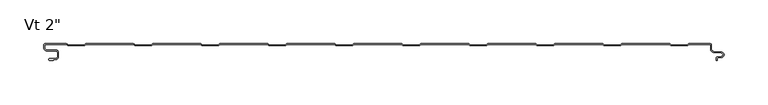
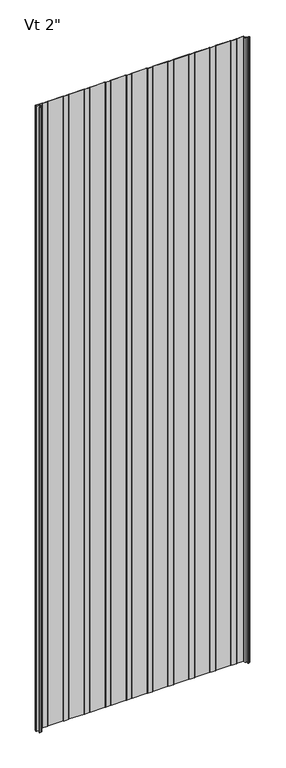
"""IFC4 building model written with IfcOpenShell, lengths in millimetres: plate geometry."""

from ifc_helpers import new_model, si_unit, frame, origin, place, context, project, spatial, polyline, circle_curve, source, transform, mapped, element, save
from ifc_brep_helpers import plane_surface, cylinder_surface, revolved_surface, advanced_brep


def plate_10c0e79f(model_context):
    return source(origin(), model_context, "Body", "AdvancedBrep", [
        advanced_brep(
        [(-378.9686912, -17.0015132, 2400.0), (-379.9686884, -18.0015164, 2400.0), (-378.9686912, -19.0015077, 2400.0), (-374.9684875, -19.0015077, 2400.0), (-374.9684875, -18.0015132, 2400.0), (-372.2762777, -18.0015132, 2400.0), (-368.976282, -14.7015175, 2400.0), (-368.976282, -10.3015263, 2400.0), (-372.2762775, -7.0015308, 2400.0), (-382.6962564, -7.0015308, 2400.0), (-384.4662506, -5.2315366, 2400.0), (-384.4662506, -0.9999889, 2400.0), (-359.965974, -0.9999889, 2400.0), (-358.5803314, -2.200228, 2400.0), (-339.2051651, -2.200228, 2400.0), (-337.8195321, -0.9999973, 2400.0), (-283.7661167, -0.9999973, 2400.0), (-282.3804838, -2.200228, 2400.0), (-263.0053175, -2.200228, 2400.0), (-261.6196845, -0.9999973, 2400.0), (-207.5662691, -0.9999973, 2400.0), (-206.1806362, -2.200228, 2400.0), (-186.8054699, -2.200228, 2400.0), (-185.4198369, -0.9999973, 2400.0), (-131.3664215, -0.9999973, 2400.0), (-129.9807886, -2.200228, 2400.0), (-110.6056223, -2.200228, 2400.0), (-109.2199893, -0.9999973, 2400.0), (-55.1665739, -0.9999973, 2400.0), (-53.780941, -2.200228, 2400.0), (-34.4057747, -2.200228, 2400.0), (-33.0201417, -0.9999973, 2400.0), (21.0332737, -0.9999973, 2400.0), (22.4189066, -2.200228, 2400.0), (41.7940729, -2.200228, 2400.0), (43.1797059, -0.9999973, 2400.0), (97.2331213, -0.9999973, 2400.0), (98.6187542, -2.200228, 2400.0), (117.9939205, -2.200228, 2400.0), (119.3795535, -0.9999973, 2400.0), (173.4329689, -0.9999973, 2400.0), (174.8186018, -2.200228, 2400.0), (194.1937681, -2.200228, 2400.0), (195.5794011, -0.9999973, 2400.0), (249.6328165, -0.9999973, 2400.0), (251.0184494, -2.200228, 2400.0), (270.3936157, -2.200228, 2400.0), (271.7792487, -0.9999973, 2400.0), (325.8326641, -0.9999973, 2400.0), (327.218297, -2.200228, 2400.0), (346.5934633, -2.200228, 2400.0), (347.9790963, -0.9999973, 2400.0), (372.4787013, -0.9999973, 2400.0), (372.4787013, -6.002598, 2400.0), (376.3016499, -9.9974338, 2400.0), (384.7931719, -10.4046415, 2400.0), (384.7921924, -14.7059795, 2400.0), (380.6513685, -14.9256402, 2400.0), (378.9686884, -16.6743434, 2400.0), (378.9686884, -19.0015261, 2400.0), (379.9686884, -19.0015261, 2400.0), (379.9686884, -16.6743434, 2400.0), (380.6955779, -15.924701, 2400.0), (384.8451655, -15.7045754, 2400.0), (384.8435732, -9.4059093, 2400.0), (376.3495495, -8.9985816, 2400.0), (373.4787013, -6.0004809, 2400.0), (373.4787013, -1.4015625, 2400.0), (372.078797, -0.0015653, 2400.0), (348.1275849, 2.36e-05, 2400.0), (347.2116305, -0.3417858, 2400.0), (346.2205829, -1.200228, 2400.0), (327.5911775, -1.200228, 2400.0), (326.6001298, -0.3417858, 2400.0), (325.6835129, 2.7e-06, 2400.0), (271.9283998, 2.7e-06, 2400.0), (271.0117829, -0.3417858, 2400.0), (270.0207353, -1.200228, 2400.0), (251.3913299, -1.200228, 2400.0), (250.4002822, -0.3417858, 2400.0), (249.4836653, 2.7e-06, 2400.0), (195.7285522, 2.7e-06, 2400.0), (194.8119353, -0.3417858, 2400.0), (193.8208877, -1.200228, 2400.0), (175.1914823, -1.200228, 2400.0), (174.2004346, -0.3417858, 2400.0), (173.2838177, 2.7e-06, 2400.0), (119.5287046, 2.7e-06, 2400.0), (118.6120877, -0.3417858, 2400.0), (117.6210401, -1.200228, 2400.0), (98.9916347, -1.200228, 2400.0), (98.000587, -0.3417858, 2400.0), (97.0839701, 2.7e-06, 2400.0), (43.328857, 2.7e-06, 2400.0), (42.4122401, -0.3417858, 2400.0), (41.4211925, -1.200228, 2400.0), (22.7917871, -1.200228, 2400.0), (21.8007394, -0.3417858, 2400.0), (20.8841225, 2.7e-06, 2400.0), (-32.8709906, 2.7e-06, 2400.0), (-33.7876075, -0.3417858, 2400.0), (-34.7786551, -1.200228, 2400.0), (-53.4080605, -1.200228, 2400.0), (-54.3991082, -0.3417858, 2400.0), (-55.3157251, 2.7e-06, 2400.0), (-109.0708382, 2.7e-06, 2400.0), (-109.9874551, -0.3417858, 2400.0), (-110.9785027, -1.200228, 2400.0), (-129.6079081, -1.200228, 2400.0), (-130.5989558, -0.3417858, 2400.0), (-131.5155727, 2.7e-06, 2400.0), (-185.2706858, 2.7e-06, 2400.0), (-186.1873027, -0.3417858, 2400.0), (-187.1783503, -1.200228, 2400.0), (-205.8077557, -1.200228, 2400.0), (-206.7988034, -0.3417858, 2400.0), (-207.7154203, 2.7e-06, 2400.0), (-261.4705334, 2.7e-06, 2400.0), (-262.3871503, -0.3417858, 2400.0), (-263.3781979, -1.200228, 2400.0), (-282.0076033, -1.200228, 2400.0), (-282.998651, -0.3417858, 2400.0), (-283.9152679, 2.7e-06, 2400.0), (-337.670381, 2.7e-06, 2400.0), (-338.5869979, -0.3417858, 2400.0), (-339.5780455, -1.200228, 2400.0), (-358.2074509, -1.200228, 2400.0), (-359.1984986, -0.3417858, 2400.0), (-360.1152069, 2.7e-06, 2400.0), (-384.0662545, 1.11e-05, 2400.0), (-385.4662506, -1.3999851, 2400.0), (-385.4662506, -5.2315366, 2400.0), (-382.6962564, -8.0015308, 2400.0), (-372.2762775, -8.0015308, 2400.0), (-369.976282, -10.3015263, 2400.0), (-369.976282, -14.7015175, 2400.0), (-372.2762777, -17.0015132, 2400.0), (-378.9686912, -17.0015132, 0.0), (-372.2762777, -17.0015132, 0.0), (-369.976282, -14.7015175, 0.0), (-369.976282, -10.3015263, 0.0), (-372.2762775, -8.0015308, 0.0), (-382.6962564, -8.0015308, 0.0), (-385.4662506, -5.2315366, 0.0), (-385.4662506, -1.3999851, 0.0), (-384.0662545, 1.11e-05, 0.0), (-360.1151155, 1.11e-05, 0.0), (-359.1984986, -0.3417858, 0.0), (-358.2074509, -1.200228, 0.0), (-339.5780455, -1.200228, 0.0), (-338.5869979, -0.3417858, 0.0), (-337.670381, 2.7e-06, 0.0), (-283.9152679, 2.7e-06, 0.0), (-282.998651, -0.3417858, 0.0), (-282.0076033, -1.200228, 0.0), (-263.3781979, -1.200228, 0.0), (-262.3871503, -0.3417858, 0.0), (-261.4705334, 2.7e-06, 0.0), (-207.7154203, 2.7e-06, 0.0), (-206.7988034, -0.3417858, 0.0), (-205.8077557, -1.200228, 0.0), (-187.1783503, -1.200228, 0.0), (-186.1873027, -0.3417858, 0.0), (-185.2706858, 2.7e-06, 0.0), (-131.5155727, 2.7e-06, 0.0), (-130.5989558, -0.3417858, 0.0), (-129.6079081, -1.200228, 0.0), (-110.9785027, -1.200228, 0.0), (-109.9874551, -0.3417858, 0.0), (-109.0708382, 2.7e-06, 0.0), (-55.3157251, 2.7e-06, 0.0), (-54.3991082, -0.3417858, 0.0), (-53.4080605, -1.200228, 0.0), (-34.7786551, -1.200228, 0.0), (-33.7876075, -0.3417858, 0.0), (-32.8709906, 2.7e-06, 0.0), (20.8841225, 2.7e-06, 0.0), (21.8007394, -0.3417858, 0.0), (22.7917871, -1.200228, 0.0), (41.4211925, -1.200228, 0.0), (42.4122401, -0.3417858, 0.0), (43.328857, 2.7e-06, 0.0), (97.0839701, 2.7e-06, 0.0), (98.000587, -0.3417858, 0.0), (98.9916347, -1.200228, 0.0), (117.6210401, -1.200228, 0.0), (118.6120877, -0.3417858, 0.0), (119.5287046, 2.7e-06, 0.0), (173.2838177, 2.7e-06, 0.0), (174.2004346, -0.3417858, 0.0), (175.1914823, -1.200228, 0.0), (193.8208877, -1.200228, 0.0), (194.8119353, -0.3417858, 0.0), (195.7285522, 2.7e-06, 0.0), (249.4836653, 2.7e-06, 0.0), (250.4002822, -0.3417858, 0.0), (251.3913299, -1.200228, 0.0), (270.0207353, -1.200228, 0.0), (271.0117829, -0.3417858, 0.0), (271.9283998, 2.7e-06, 0.0), (325.6835129, 2.7e-06, 0.0), (326.6001298, -0.3417858, 0.0), (327.5911775, -1.200228, 0.0), (346.2205829, -1.200228, 0.0), (347.2116305, -0.3417858, 0.0), (348.1282474, 2.7e-06, 0.0), (372.078797, 2.36e-05, 0.0), (373.4787013, -1.4015625, 0.0), (373.4787013, -6.0004809, 0.0), (376.3495495, -8.9985816, 0.0), (384.8435732, -9.4059093, 0.0), (384.8451655, -15.7045754, 0.0), (380.6955779, -15.924701, 0.0), (379.9686884, -16.6743434, 0.0), (379.9686884, -19.0015261, 0.0), (378.9686884, -19.0015261, 0.0), (378.9686884, -16.6743434, 0.0), (380.6513685, -14.9256402, 0.0), (384.7921924, -14.7059795, 0.0), (384.7931719, -10.4046415, 0.0), (376.3016499, -9.9974338, 0.0), (372.4787013, -6.002598, 0.0), (372.4787013, -0.9999973, 0.0), (347.9790963, -0.9999973, 0.0), (346.5934633, -2.200228, 0.0), (327.218297, -2.200228, 0.0), (325.8326641, -0.9999973, 0.0), (271.7792487, -0.9999973, 0.0), (270.3936157, -2.200228, 0.0), (251.0184494, -2.200228, 0.0), (249.6328165, -0.9999973, 0.0), (195.5794011, -0.9999973, 0.0), (194.1937681, -2.200228, 0.0), (174.8186018, -2.200228, 0.0), (173.4329689, -0.9999973, 0.0), (119.3795535, -0.9999973, 0.0), (117.9939205, -2.200228, 0.0), (98.6187542, -2.200228, 0.0), (97.2331213, -0.9999973, 0.0), (43.1797059, -0.9999973, 0.0), (41.7940729, -2.200228, 0.0), (22.4189066, -2.200228, 0.0), (21.0332737, -0.9999973, 0.0), (-33.0201417, -0.9999973, 0.0), (-34.4057747, -2.200228, 0.0), (-53.780941, -2.200228, 0.0), (-55.1665739, -0.9999973, 0.0), (-109.2199893, -0.9999973, 0.0), (-110.6056223, -2.200228, 0.0), (-129.9807886, -2.200228, 0.0), (-131.3664215, -0.9999973, 0.0), (-185.4198369, -0.9999973, 0.0), (-186.8054699, -2.200228, 0.0), (-206.1806362, -2.200228, 0.0), (-207.5662691, -0.9999973, 0.0), (-261.6196845, -0.9999973, 0.0), (-263.0053175, -2.200228, 0.0), (-282.3804838, -2.200228, 0.0), (-283.7661167, -0.9999973, 0.0), (-337.8195321, -0.9999973, 0.0), (-339.2051651, -2.200228, 0.0), (-358.5803314, -2.200228, 0.0), (-359.965974, -0.9999889, 0.0), (-384.4662506, -0.9999889, 0.0), (-384.4662506, -5.2315366, 0.0), (-382.6962564, -7.0015308, 0.0), (-372.2762775, -7.0015308, 0.0), (-368.976282, -10.3015263, 0.0), (-368.976282, -14.7015175, 0.0), (-372.2762777, -18.0015132, 0.0), (-374.9684875, -18.0015132, 0.0), (-374.9684875, -19.0015077, 0.0), (-378.9686912, -19.0015077, 0.0), (-379.9686884, -18.0015165, 0.0)],
        [
            (0, 1, circle_curve(frame((-378.9686912, -18.0015105, 2400.0), z_axis=(0.0, 0.0, 1.0), x_axis=(1.0, 0.0, 0.0)), 0.9999973)),
            (1, 2, circle_curve(frame((-378.9686912, -18.0015105, 2400.0), z_axis=(0.0, 0.0, 1.0), x_axis=(1.0, 0.0, 0.0)), 0.9999972)),
            (2, 3),
            (3, 4),
            (4, 5),
            (5, 6, circle_curve(frame((-372.2762777, -14.7015175, 2400.0), z_axis=(0.0, 0.0, 1.0), x_axis=(1.0, 0.0, 0.0)), 3.2999957)),
            (6, 7),
            (7, 8, circle_curve(frame((-372.2762775, -10.3015263, 2400.0), z_axis=(0.0, 0.0, 1.0), x_axis=(1.0, 0.0, 0.0)), 3.2999955)),
            (8, 9),
            (9, 10, circle_curve(frame((-382.6962564, -5.2315366, 2400.0), z_axis=(0.0, 0.0, -1.0), x_axis=(1.0, 0.0, 0.0)), 1.7699942)),
            (10, 11),
            (11, 12),
            (12, 13),
            (13, 14),
            (14, 15),
            (15, 16),
            (16, 17),
            (17, 18),
            (18, 19),
            (19, 20),
            (20, 21),
            (21, 22),
            (22, 23),
            (23, 24),
            (24, 25),
            (25, 26),
            (26, 27),
            (27, 28),
            (28, 29),
            (29, 30),
            (30, 31),
            (31, 32),
            (32, 33),
            (33, 34),
            (34, 35),
            (35, 36),
            (36, 37),
            (37, 38),
            (38, 39),
            (39, 40),
            (40, 41),
            (41, 42),
            (42, 43),
            (43, 44),
            (44, 45),
            (45, 46),
            (46, 47),
            (47, 48),
            (48, 49),
            (49, 50),
            (50, 51),
            (51, 52),
            (52, 53),
            (53, 54, circle_curve(frame((376.4939817, -5.9867311, 2400.0), z_axis=(0.0, 0.0, 1.0), x_axis=(1.0, 0.0, 0.0)), 4.0153117)),
            (54, 55),
            (55, 56, circle_curve(frame((384.6781032, -12.5552844, 2400.0), z_axis=(0.0, 0.0, -1.0), x_axis=(1.0, 0.0, 0.0)), 2.153719)),
            (56, 57),
            (57, 58, circle_curve(frame((380.7186869, -16.6743434, 2400.0), z_axis=(0.0, 0.0, 1.0), x_axis=(1.0, 0.0, 0.0)), 1.7499985)),
            (58, 59),
            (59, 60),
            (60, 61),
            (61, 62, circle_curve(frame((380.7186869, -16.6743434, 2400.0), z_axis=(0.0, 0.0, -1.0), x_axis=(1.0, 0.0, 0.0)), 0.7499985)),
            (62, 63),
            (63, 64, circle_curve(frame((384.6781032, -12.5552844, 2400.0), z_axis=(0.0, 0.0, 1.0), x_axis=(1.0, 0.0, 0.0)), 3.153719)),
            (64, 65),
            (65, 66, circle_curve(frame((376.4939817, -5.9867311, 2400.0), z_axis=(0.0, 0.0, -1.0), x_axis=(1.0, 0.0, 0.0)), 3.0153117)),
            (66, 67),
            (67, 68, circle_curve(frame((372.0787041, -1.4015625, 2400.0), z_axis=(0.0, 0.0, 1.0), x_axis=(1.0, 0.0, 0.0)), 1.3999972)),
            (68, 69),
            (69, 70, circle_curve(frame((348.1282474, -1.3999945, 2400.0), z_axis=(0.0, 0.0, 1.0), x_axis=(1.0, 0.0, 0.0)), 1.3999972)),
            (70, 71),
            (71, 72),
            (72, 73),
            (73, 74, circle_curve(frame((325.6835129, -1.3999945, 2400.0), z_axis=(0.0, 0.0, 1.0), x_axis=(1.0, 0.0, 0.0)), 1.3999972)),
            (74, 75),
            (75, 76, circle_curve(frame((271.9283998, -1.3999945, 2400.0), z_axis=(0.0, 0.0, 1.0), x_axis=(1.0, 0.0, 0.0)), 1.3999972)),
            (76, 77),
            (77, 78),
            (78, 79),
            (79, 80, circle_curve(frame((249.4836653, -1.3999945, 2400.0), z_axis=(0.0, 0.0, 1.0), x_axis=(1.0, 0.0, 0.0)), 1.3999972)),
            (80, 81),
            (81, 82, circle_curve(frame((195.7285522, -1.3999945, 2400.0), z_axis=(0.0, 0.0, 1.0), x_axis=(1.0, 0.0, 0.0)), 1.3999972)),
            (82, 83),
            (83, 84),
            (84, 85),
            (85, 86, circle_curve(frame((173.2838177, -1.3999945, 2400.0), z_axis=(0.0, 0.0, 1.0), x_axis=(1.0, 0.0, 0.0)), 1.3999972)),
            (86, 87),
            (87, 88, circle_curve(frame((119.5287046, -1.3999945, 2400.0), z_axis=(0.0, 0.0, 1.0), x_axis=(1.0, 0.0, 0.0)), 1.3999972)),
            (88, 89),
            (89, 90),
            (90, 91),
            (91, 92, circle_curve(frame((97.0839701, -1.3999945, 2400.0), z_axis=(0.0, 0.0, 1.0), x_axis=(1.0, 0.0, 0.0)), 1.3999972)),
            (92, 93),
            (93, 94, circle_curve(frame((43.328857, -1.3999945, 2400.0), z_axis=(0.0, 0.0, 1.0), x_axis=(1.0, 0.0, 0.0)), 1.3999972)),
            (94, 95),
            (95, 96),
            (96, 97),
            (97, 98, circle_curve(frame((20.8841225, -1.3999945, 2400.0), z_axis=(0.0, 0.0, 1.0), x_axis=(1.0, 0.0, 0.0)), 1.3999972)),
            (98, 99),
            (99, 100, circle_curve(frame((-32.8709906, -1.3999945, 2400.0), z_axis=(0.0, 0.0, 1.0), x_axis=(1.0, 0.0, 0.0)), 1.3999972)),
            (100, 101),
            (101, 102),
            (102, 103),
            (103, 104, circle_curve(frame((-55.3157251, -1.3999945, 2400.0), z_axis=(0.0, 0.0, 1.0), x_axis=(1.0, 0.0, 0.0)), 1.3999972)),
            (104, 105),
            (105, 106, circle_curve(frame((-109.0708382, -1.3999945, 2400.0), z_axis=(0.0, 0.0, 1.0), x_axis=(1.0, 0.0, 0.0)), 1.3999972)),
            (106, 107),
            (107, 108),
            (108, 109),
            (109, 110, circle_curve(frame((-131.5155727, -1.3999945, 2400.0), z_axis=(0.0, 0.0, 1.0), x_axis=(1.0, 0.0, 0.0)), 1.3999972)),
            (110, 111),
            (111, 112, circle_curve(frame((-185.2706858, -1.3999945, 2400.0), z_axis=(0.0, 0.0, 1.0), x_axis=(1.0, 0.0, 0.0)), 1.3999972)),
            (112, 113),
            (113, 114),
            (114, 115),
            (115, 116, circle_curve(frame((-207.7154203, -1.3999945, 2400.0), z_axis=(0.0, 0.0, 1.0), x_axis=(1.0, 0.0, 0.0)), 1.3999972)),
            (116, 117),
            (117, 118, circle_curve(frame((-261.4705334, -1.3999945, 2400.0), z_axis=(0.0, 0.0, 1.0), x_axis=(1.0, 0.0, 0.0)), 1.3999972)),
            (118, 119),
            (119, 120),
            (120, 121),
            (121, 122, circle_curve(frame((-283.9152679, -1.3999945, 2400.0), z_axis=(0.0, 0.0, 1.0), x_axis=(1.0, 0.0, 0.0)), 1.3999972)),
            (122, 123),
            (123, 124, circle_curve(frame((-337.670381, -1.3999945, 2400.0), z_axis=(0.0, 0.0, 1.0), x_axis=(1.0, 0.0, 0.0)), 1.3999972)),
            (124, 125),
            (125, 126),
            (126, 127),
            (127, 128, circle_curve(frame((-360.1151155, -1.3999945, 2400.0), z_axis=(0.0, 0.0, 1.0), x_axis=(1.0, 0.0, 0.0)), 1.3999972)),
            (128, 129),
            (129, 130, circle_curve(frame((-384.0662545, -1.3999851, 2400.0), z_axis=(0.0, 0.0, 1.0), x_axis=(1.0, 0.0, 0.0)), 1.3999962)),
            (130, 131),
            (131, 132, circle_curve(frame((-382.6962564, -5.2315366, 2400.0), z_axis=(0.0, 0.0, 1.0), x_axis=(1.0, 0.0, 0.0)), 2.7699942)),
            (132, 133),
            (133, 134, circle_curve(frame((-372.2762775, -10.3015263, 2400.0), z_axis=(0.0, 0.0, -1.0), x_axis=(1.0, 0.0, 0.0)), 2.2999955)),
            (134, 135),
            (135, 136, circle_curve(frame((-372.2762777, -14.7015175, 2400.0), z_axis=(0.0, 0.0, -1.0), x_axis=(1.0, 0.0, 0.0)), 2.2999957)),
            (136, 0),
            (137, 138),
            (138, 139, circle_curve(frame((-372.2762777, -14.7015175, 0.0), z_axis=(0.0, 0.0, 1.0), x_axis=(1.0, 0.0, 0.0)), 2.2999957)),
            (139, 140),
            (140, 141, circle_curve(frame((-372.2762775, -10.3015263, 0.0), z_axis=(0.0, 0.0, 1.0), x_axis=(1.0, 0.0, 0.0)), 2.2999955)),
            (141, 142),
            (142, 143, circle_curve(frame((-382.6962564, -5.2315366, 0.0), z_axis=(0.0, 0.0, -1.0), x_axis=(1.0, 0.0, 0.0)), 2.7699942)),
            (143, 144),
            (144, 145, circle_curve(frame((-384.0662545, -1.3999851, 0.0), z_axis=(0.0, 0.0, -1.0), x_axis=(1.0, 0.0, 0.0)), 1.3999962)),
            (145, 146),
            (146, 147, circle_curve(frame((-360.1151155, -1.3999945, 0.0), z_axis=(0.0, 0.0, -1.0), x_axis=(1.0, 0.0, 0.0)), 1.3999972)),
            (147, 148),
            (148, 149),
            (149, 150),
            (150, 151, circle_curve(frame((-337.670381, -1.3999945, 0.0), z_axis=(0.0, 0.0, -1.0), x_axis=(1.0, 0.0, 0.0)), 1.3999972)),
            (151, 152),
            (152, 153, circle_curve(frame((-283.9152679, -1.3999945, 0.0), z_axis=(0.0, 0.0, -1.0), x_axis=(1.0, 0.0, 0.0)), 1.3999972)),
            (153, 154),
            (154, 155),
            (155, 156),
            (156, 157, circle_curve(frame((-261.4705334, -1.3999945, 0.0), z_axis=(0.0, 0.0, -1.0), x_axis=(1.0, 0.0, 0.0)), 1.3999972)),
            (157, 158),
            (158, 159, circle_curve(frame((-207.7154203, -1.3999945, 0.0), z_axis=(0.0, 0.0, -1.0), x_axis=(1.0, 0.0, 0.0)), 1.3999972)),
            (159, 160),
            (160, 161),
            (161, 162),
            (162, 163, circle_curve(frame((-185.2706858, -1.3999945, 0.0), z_axis=(0.0, 0.0, -1.0), x_axis=(1.0, 0.0, 0.0)), 1.3999972)),
            (163, 164),
            (164, 165, circle_curve(frame((-131.5155727, -1.3999945, 0.0), z_axis=(0.0, 0.0, -1.0), x_axis=(1.0, 0.0, 0.0)), 1.3999972)),
            (165, 166),
            (166, 167),
            (167, 168),
            (168, 169, circle_curve(frame((-109.0708382, -1.3999945, 0.0), z_axis=(0.0, 0.0, -1.0), x_axis=(1.0, 0.0, 0.0)), 1.3999972)),
            (169, 170),
            (170, 171, circle_curve(frame((-55.3157251, -1.3999945, 0.0), z_axis=(0.0, 0.0, -1.0), x_axis=(1.0, 0.0, 0.0)), 1.3999972)),
            (171, 172),
            (172, 173),
            (173, 174),
            (174, 175, circle_curve(frame((-32.8709906, -1.3999945, 0.0), z_axis=(0.0, 0.0, -1.0), x_axis=(1.0, 0.0, 0.0)), 1.3999972)),
            (175, 176),
            (176, 177, circle_curve(frame((20.8841225, -1.3999945, 0.0), z_axis=(0.0, 0.0, -1.0), x_axis=(1.0, 0.0, 0.0)), 1.3999972)),
            (177, 178),
            (178, 179),
            (179, 180),
            (180, 181, circle_curve(frame((43.328857, -1.3999945, 0.0), z_axis=(0.0, 0.0, -1.0), x_axis=(1.0, 0.0, 0.0)), 1.3999972)),
            (181, 182),
            (182, 183, circle_curve(frame((97.0839701, -1.3999945, 0.0), z_axis=(0.0, 0.0, -1.0), x_axis=(1.0, 0.0, 0.0)), 1.3999972)),
            (183, 184),
            (184, 185),
            (185, 186),
            (186, 187, circle_curve(frame((119.5287046, -1.3999945, 0.0), z_axis=(0.0, 0.0, -1.0), x_axis=(1.0, 0.0, 0.0)), 1.3999972)),
            (187, 188),
            (188, 189, circle_curve(frame((173.2838177, -1.3999945, 0.0), z_axis=(0.0, 0.0, -1.0), x_axis=(1.0, 0.0, 0.0)), 1.3999972)),
            (189, 190),
            (190, 191),
            (191, 192),
            (192, 193, circle_curve(frame((195.7285522, -1.3999945, 0.0), z_axis=(0.0, 0.0, -1.0), x_axis=(1.0, 0.0, 0.0)), 1.3999972)),
            (193, 194),
            (194, 195, circle_curve(frame((249.4836653, -1.3999945, 0.0), z_axis=(0.0, 0.0, -1.0), x_axis=(1.0, 0.0, 0.0)), 1.3999972)),
            (195, 196),
            (196, 197),
            (197, 198),
            (198, 199, circle_curve(frame((271.9283998, -1.3999945, 0.0), z_axis=(0.0, 0.0, -1.0), x_axis=(1.0, 0.0, 0.0)), 1.3999972)),
            (199, 200),
            (200, 201, circle_curve(frame((325.6835129, -1.3999945, 0.0), z_axis=(0.0, 0.0, -1.0), x_axis=(1.0, 0.0, 0.0)), 1.3999972)),
            (201, 202),
            (202, 203),
            (203, 204),
            (204, 205, circle_curve(frame((348.1282474, -1.3999945, 0.0), z_axis=(0.0, 0.0, -1.0), x_axis=(1.0, 0.0, 0.0)), 1.3999972)),
            (205, 206),
            (206, 207, circle_curve(frame((372.0787041, -1.4015625, 0.0), z_axis=(0.0, 0.0, -1.0), x_axis=(1.0, 0.0, 0.0)), 1.3999972)),
            (207, 208),
            (208, 209, circle_curve(frame((376.4939817, -5.9867311, 0.0), z_axis=(0.0, 0.0, 1.0), x_axis=(1.0, 0.0, 0.0)), 3.0153117)),
            (209, 210),
            (210, 211, circle_curve(frame((384.6781032, -12.5552844, 0.0), z_axis=(0.0, 0.0, -1.0), x_axis=(1.0, 0.0, 0.0)), 3.153719)),
            (211, 212),
            (212, 213, circle_curve(frame((380.7186869, -16.6743434, 0.0), z_axis=(0.0, 0.0, 1.0), x_axis=(1.0, 0.0, 0.0)), 0.7499985)),
            (213, 214),
            (214, 215),
            (215, 216),
            (216, 217, circle_curve(frame((380.7186869, -16.6743434, 0.0), z_axis=(0.0, 0.0, -1.0), x_axis=(1.0, 0.0, 0.0)), 1.7499985)),
            (217, 218),
            (218, 219, circle_curve(frame((384.6781032, -12.5552844, 0.0), z_axis=(0.0, 0.0, 1.0), x_axis=(1.0, 0.0, 0.0)), 2.153719)),
            (219, 220),
            (220, 221, circle_curve(frame((376.4939817, -5.9867311, 0.0), z_axis=(0.0, 0.0, -1.0), x_axis=(1.0, 0.0, 0.0)), 4.0153117)),
            (221, 222),
            (222, 223),
            (223, 224),
            (224, 225),
            (225, 226),
            (226, 227),
            (227, 228),
            (228, 229),
            (229, 230),
            (230, 231),
            (231, 232),
            (232, 233),
            (233, 234),
            (234, 235),
            (235, 236),
            (236, 237),
            (237, 238),
            (238, 239),
            (239, 240),
            (240, 241),
            (241, 242),
            (242, 243),
            (243, 244),
            (244, 245),
            (245, 246),
            (246, 247),
            (247, 248),
            (248, 249),
            (249, 250),
            (250, 251),
            (251, 252),
            (252, 253),
            (253, 254),
            (254, 255),
            (255, 256),
            (256, 257),
            (257, 258),
            (258, 259),
            (259, 260),
            (260, 261),
            (261, 262),
            (262, 263),
            (263, 264),
            (264, 265, circle_curve(frame((-382.6962564, -5.2315366, 0.0), z_axis=(0.0, 0.0, 1.0), x_axis=(1.0, 0.0, 0.0)), 1.7699942)),
            (265, 266),
            (266, 267, circle_curve(frame((-372.2762775, -10.3015263, 0.0), z_axis=(0.0, 0.0, -1.0), x_axis=(1.0, 0.0, 0.0)), 3.2999955)),
            (267, 268),
            (268, 269, circle_curve(frame((-372.2762777, -14.7015175, 0.0), z_axis=(0.0, 0.0, -1.0), x_axis=(1.0, 0.0, 0.0)), 3.2999957)),
            (269, 270),
            (270, 271),
            (271, 272),
            (272, 273, circle_curve(frame((-378.9686912, -18.0015105, 0.0), z_axis=(0.0, 0.0, -1.0), x_axis=(1.0, 0.0, 0.0)), 0.9999972)),
            (273, 137, circle_curve(frame((-378.9686912, -18.0015105, 0.0), z_axis=(0.0, 0.0, -1.0), x_axis=(1.0, 0.0, 0.0)), 0.9999973)),
            (136, 138),
            (137, 0),
            (135, 139),
            (134, 140),
            (133, 141),
            (132, 142),
            (131, 143),
            (130, 144),
            (129, 145),
            (128, 146),
            (127, 147),
            (126, 148),
            (125, 149),
            (124, 150),
            (123, 151),
            (122, 152),
            (121, 153),
            (120, 154),
            (119, 155),
            (118, 156),
            (117, 157),
            (116, 158),
            (115, 159),
            (114, 160),
            (113, 161),
            (112, 162),
            (111, 163),
            (110, 164),
            (109, 165),
            (108, 166),
            (107, 167),
            (106, 168),
            (105, 169),
            (104, 170),
            (103, 171),
            (102, 172),
            (101, 173),
            (100, 174),
            (99, 175),
            (98, 176),
            (97, 177),
            (96, 178),
            (95, 179),
            (94, 180),
            (93, 181),
            (92, 182),
            (91, 183),
            (90, 184),
            (89, 185),
            (88, 186),
            (87, 187),
            (86, 188),
            (85, 189),
            (84, 190),
            (83, 191),
            (82, 192),
            (81, 193),
            (80, 194),
            (79, 195),
            (78, 196),
            (77, 197),
            (76, 198),
            (75, 199),
            (74, 200),
            (73, 201),
            (72, 202),
            (71, 203),
            (70, 204),
            (69, 205),
            (68, 206),
            (67, 207),
            (66, 208),
            (65, 209),
            (64, 210),
            (63, 211),
            (62, 212),
            (61, 213),
            (60, 214),
            (59, 215),
            (58, 216),
            (57, 217),
            (56, 218),
            (55, 219),
            (54, 220),
            (53, 221),
            (52, 222),
            (51, 223),
            (50, 224),
            (49, 225),
            (48, 226),
            (47, 227),
            (46, 228),
            (45, 229),
            (44, 230),
            (43, 231),
            (42, 232),
            (41, 233),
            (40, 234),
            (39, 235),
            (38, 236),
            (37, 237),
            (36, 238),
            (35, 239),
            (34, 240),
            (33, 241),
            (32, 242),
            (31, 243),
            (30, 244),
            (29, 245),
            (28, 246),
            (27, 247),
            (26, 248),
            (25, 249),
            (24, 250),
            (23, 251),
            (22, 252),
            (21, 253),
            (20, 254),
            (19, 255),
            (18, 256),
            (17, 257),
            (16, 258),
            (15, 259),
            (14, 260),
            (13, 261),
            (12, 262),
            (11, 263),
            (10, 264),
            (9, 265),
            (8, 266),
            (7, 267),
            (6, 268),
            (5, 269),
            (4, 270),
            (3, 271),
            (2, 272),
            (1, 273),
        ],
        [
            plane_surface(frame((0.0, 2.7e-06, 2400.0), z_axis=(0.0, 0.0, 1.0), x_axis=(0.0, 1.0, 0.0))),
            plane_surface(frame((0.0, 2.7e-06, 0.0), z_axis=(0.0, 0.0, -1.0), x_axis=(0.0, 1.0, 0.0))),
            plane_surface(frame((-378.9686912, -17.0015132, 2400.0), z_axis=(0.0, 1.0, 0.0), x_axis=(0.0, 0.0, -1.0))),
            revolved_surface(polyline([(-369.97628199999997, -14.7015175, 0.0), (-369.97628199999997, -14.7015175, 2400.0)]), (-372.2762777, -14.7015175, 2400.0), (0.0, 0.0, -1.0)),
            plane_surface(frame((-369.976282, -14.7015175, 2400.0), z_axis=(-1.0, 0.0, 0.0), x_axis=(0.0, 0.0, -1.0))),
            revolved_surface(polyline([(-369.97628199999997, -10.3015263, 0.0), (-369.97628199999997, -10.3015263, 2400.0)]), (-372.2762775, -10.3015263, 2400.0), (0.0, 0.0, -1.0)),
            plane_surface(frame((-372.2762775, -8.0015308, 2400.0), z_axis=(0.0, -1.0, 0.0), x_axis=(0.0, 0.0, -1.0))),
            cylinder_surface(frame((-382.6962564, -5.2315366, 2400.0), z_axis=(0.0, 0.0, 1.0), x_axis=(1.0, 0.0, 0.0)), 2.7699942),
            plane_surface(frame((-385.4662506, -5.2315366, 2400.0), z_axis=(-1.0, 0.0, 0.0), x_axis=(0.0, 0.0, -1.0))),
            cylinder_surface(frame((-384.0662545, -1.3999851, 2400.0), z_axis=(0.0, 0.0, 1.0), x_axis=(1.0, 0.0, 0.0)), 1.3999962),
            plane_surface(frame((-384.0662545, 1.11e-05, 2400.0), z_axis=(0.0, 1.0, 0.0), x_axis=(0.0, 0.0, -1.0))),
            cylinder_surface(frame((-360.1151155, -1.3999945, 2400.0), z_axis=(0.0, 0.0, 1.0), x_axis=(1.0, 0.0, 0.0)), 1.3999972),
            plane_surface(frame((-359.1984986, -0.3417858, 2400.0), z_axis=(0.6547276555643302, 0.7558648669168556, 0.0), x_axis=(0.0, 0.0, -1.0))),
            plane_surface(frame((-348.8927482, -1.200228, 2400.0), z_axis=(0.0, 1.0, 0.0), x_axis=(0.0, 0.0, -1.0))),
            plane_surface(frame((-339.5780455, -1.200228, 2400.0), z_axis=(-0.654727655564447, 0.7558648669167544, 0.0), x_axis=(0.0, 0.0, -1.0))),
            cylinder_surface(frame((-337.670381, -1.3999945, 2400.0), z_axis=(0.0, 0.0, 1.0), x_axis=(1.0, 0.0, 0.0)), 1.3999972),
            plane_surface(frame((-337.670381, 2.7e-06, 2400.0), z_axis=(0.0, 1.0, 0.0), x_axis=(0.0, 0.0, -1.0))),
            cylinder_surface(frame((-283.9152679, -1.3999945, 2400.0), z_axis=(0.0, 0.0, 1.0), x_axis=(1.0, 0.0, 0.0)), 1.3999972),
            plane_surface(frame((-282.998651, -0.3417858, 2400.0), z_axis=(0.6547276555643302, 0.7558648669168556, 0.0), x_axis=(0.0, 0.0, -1.0))),
            plane_surface(frame((-272.6929006, -1.200228, 2400.0), z_axis=(0.0, 1.0, 0.0), x_axis=(0.0, 0.0, -1.0))),
            plane_surface(frame((-263.3781979, -1.200228, 2400.0), z_axis=(-0.654727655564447, 0.7558648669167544, 0.0), x_axis=(0.0, 0.0, -1.0))),
            cylinder_surface(frame((-261.4705334, -1.3999945, 2400.0), z_axis=(0.0, 0.0, 1.0), x_axis=(1.0, 0.0, 0.0)), 1.3999972),
            plane_surface(frame((-261.4705334, 2.7e-06, 2400.0), z_axis=(0.0, 1.0, 0.0), x_axis=(0.0, 0.0, -1.0))),
            cylinder_surface(frame((-207.7154203, -1.3999945, 2400.0), z_axis=(0.0, 0.0, 1.0), x_axis=(1.0, 0.0, 0.0)), 1.3999972),
            plane_surface(frame((-206.7988034, -0.3417858, 2400.0), z_axis=(0.6547276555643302, 0.7558648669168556, 0.0), x_axis=(0.0, 0.0, -1.0))),
            plane_surface(frame((-196.493053, -1.200228, 2400.0), z_axis=(0.0, 1.0, 0.0), x_axis=(0.0, 0.0, -1.0))),
            plane_surface(frame((-187.1783503, -1.200228, 2400.0), z_axis=(-0.654727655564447, 0.7558648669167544, 0.0), x_axis=(0.0, 0.0, -1.0))),
            cylinder_surface(frame((-185.2706858, -1.3999945, 2400.0), z_axis=(0.0, 0.0, 1.0), x_axis=(1.0, 0.0, 0.0)), 1.3999972),
            plane_surface(frame((-185.2706858, 2.7e-06, 2400.0), z_axis=(0.0, 1.0, 0.0), x_axis=(0.0, 0.0, -1.0))),
            cylinder_surface(frame((-131.5155727, -1.3999945, 2400.0), z_axis=(0.0, 0.0, 1.0), x_axis=(1.0, 0.0, 0.0)), 1.3999972),
            plane_surface(frame((-130.5989558, -0.3417858, 2400.0), z_axis=(0.6547276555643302, 0.7558648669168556, 0.0), x_axis=(0.0, 0.0, -1.0))),
            plane_surface(frame((-120.2932054, -1.200228, 2400.0), z_axis=(0.0, 1.0, 0.0), x_axis=(0.0, 0.0, -1.0))),
            plane_surface(frame((-110.9785027, -1.200228, 2400.0), z_axis=(-0.654727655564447, 0.7558648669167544, 0.0), x_axis=(0.0, 0.0, -1.0))),
            cylinder_surface(frame((-109.0708382, -1.3999945, 2400.0), z_axis=(0.0, 0.0, 1.0), x_axis=(1.0, 0.0, 0.0)), 1.3999972),
            plane_surface(frame((-109.0708382, 2.7e-06, 2400.0), z_axis=(0.0, 1.0, 0.0), x_axis=(0.0, 0.0, -1.0))),
            cylinder_surface(frame((-55.3157251, -1.3999945, 2400.0), z_axis=(0.0, 0.0, 1.0), x_axis=(1.0, 0.0, 0.0)), 1.3999972),
            plane_surface(frame((-54.3991082, -0.3417858, 2400.0), z_axis=(0.6547276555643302, 0.7558648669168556, 0.0), x_axis=(0.0, 0.0, -1.0))),
            plane_surface(frame((-44.0933578, -1.200228, 2400.0), z_axis=(0.0, 1.0, 0.0), x_axis=(0.0, 0.0, -1.0))),
            plane_surface(frame((-34.7786551, -1.200228, 2400.0), z_axis=(-0.654727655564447, 0.7558648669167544, 0.0), x_axis=(0.0, 0.0, -1.0))),
            cylinder_surface(frame((-32.8709906, -1.3999945, 2400.0), z_axis=(0.0, 0.0, 1.0), x_axis=(1.0, 0.0, 0.0)), 1.3999972),
            plane_surface(frame((-32.8709906, 2.7e-06, 2400.0), z_axis=(0.0, 1.0, 0.0), x_axis=(0.0, 0.0, -1.0))),
            cylinder_surface(frame((20.8841225, -1.3999945, 2400.0), z_axis=(0.0, 0.0, 1.0), x_axis=(1.0, 0.0, 0.0)), 1.3999972),
            plane_surface(frame((21.8007394, -0.3417858, 2400.0), z_axis=(0.6547276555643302, 0.7558648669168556, 0.0), x_axis=(0.0, 0.0, -1.0))),
            plane_surface(frame((32.1064898, -1.200228, 2400.0), z_axis=(0.0, 1.0, 0.0), x_axis=(0.0, 0.0, -1.0))),
            plane_surface(frame((41.4211925, -1.200228, 2400.0), z_axis=(-0.654727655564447, 0.7558648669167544, 0.0), x_axis=(0.0, 0.0, -1.0))),
            cylinder_surface(frame((43.328857, -1.3999945, 2400.0), z_axis=(0.0, 0.0, 1.0), x_axis=(1.0, 0.0, 0.0)), 1.3999972),
            plane_surface(frame((43.328857, 2.7e-06, 2400.0), z_axis=(0.0, 1.0, 0.0), x_axis=(0.0, 0.0, -1.0))),
            cylinder_surface(frame((97.0839701, -1.3999945, 2400.0), z_axis=(0.0, 0.0, 1.0), x_axis=(1.0, 0.0, 0.0)), 1.3999972),
            plane_surface(frame((98.000587, -0.3417858, 2400.0), z_axis=(0.6547276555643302, 0.7558648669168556, 0.0), x_axis=(0.0, 0.0, -1.0))),
            plane_surface(frame((108.3063374, -1.200228, 2400.0), z_axis=(0.0, 1.0, 0.0), x_axis=(0.0, 0.0, -1.0))),
            plane_surface(frame((117.6210401, -1.200228, 2400.0), z_axis=(-0.654727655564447, 0.7558648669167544, 0.0), x_axis=(0.0, 0.0, -1.0))),
            cylinder_surface(frame((119.5287046, -1.3999945, 2400.0), z_axis=(0.0, 0.0, 1.0), x_axis=(1.0, 0.0, 0.0)), 1.3999972),
            plane_surface(frame((119.5287046, 2.7e-06, 2400.0), z_axis=(0.0, 1.0, 0.0), x_axis=(0.0, 0.0, -1.0))),
            cylinder_surface(frame((173.2838177, -1.3999945, 2400.0), z_axis=(0.0, 0.0, 1.0), x_axis=(1.0, 0.0, 0.0)), 1.3999972),
            plane_surface(frame((174.2004346, -0.3417858, 2400.0), z_axis=(0.6547276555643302, 0.7558648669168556, 0.0), x_axis=(0.0, 0.0, -1.0))),
            plane_surface(frame((184.506185, -1.200228, 2400.0), z_axis=(0.0, 1.0, 0.0), x_axis=(0.0, 0.0, -1.0))),
            plane_surface(frame((193.8208877, -1.200228, 2400.0), z_axis=(-0.654727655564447, 0.7558648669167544, 0.0), x_axis=(0.0, 0.0, -1.0))),
            cylinder_surface(frame((195.7285522, -1.3999945, 2400.0), z_axis=(0.0, 0.0, 1.0), x_axis=(1.0, 0.0, 0.0)), 1.3999972),
            plane_surface(frame((195.7285522, 2.7e-06, 2400.0), z_axis=(0.0, 1.0, 0.0), x_axis=(0.0, 0.0, -1.0))),
            cylinder_surface(frame((249.4836653, -1.3999945, 2400.0), z_axis=(0.0, 0.0, 1.0), x_axis=(1.0, 0.0, 0.0)), 1.3999972),
            plane_surface(frame((250.4002822, -0.3417858, 2400.0), z_axis=(0.6547276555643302, 0.7558648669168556, 0.0), x_axis=(0.0, 0.0, -1.0))),
            plane_surface(frame((260.7060326, -1.200228, 2400.0), z_axis=(0.0, 1.0, 0.0), x_axis=(0.0, 0.0, -1.0))),
            plane_surface(frame((270.0207353, -1.200228, 2400.0), z_axis=(-0.654727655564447, 0.7558648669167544, 0.0), x_axis=(0.0, 0.0, -1.0))),
            cylinder_surface(frame((271.9283998, -1.3999945, 2400.0), z_axis=(0.0, 0.0, 1.0), x_axis=(1.0, 0.0, 0.0)), 1.3999972),
            plane_surface(frame((271.9283998, 2.7e-06, 2400.0), z_axis=(0.0, 1.0, 0.0), x_axis=(0.0, 0.0, -1.0))),
            cylinder_surface(frame((325.6835129, -1.3999945, 2400.0), z_axis=(0.0, 0.0, 1.0), x_axis=(1.0, 0.0, 0.0)), 1.3999972),
            plane_surface(frame((326.6001298, -0.3417858, 2400.0), z_axis=(0.6547276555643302, 0.7558648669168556, 0.0), x_axis=(0.0, 0.0, -1.0))),
            plane_surface(frame((336.9058802, -1.200228, 2400.0), z_axis=(0.0, 1.0, 0.0), x_axis=(0.0, 0.0, -1.0))),
            plane_surface(frame((346.2205829, -1.200228, 2400.0), z_axis=(-0.654727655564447, 0.7558648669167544, 0.0), x_axis=(0.0, 0.0, -1.0))),
            cylinder_surface(frame((348.1282474, -1.3999945, 2400.0), z_axis=(0.0, 0.0, 1.0), x_axis=(1.0, 0.0, 0.0)), 1.3999972),
            plane_surface(frame((348.1275849, 2.36e-05, 2400.0), z_axis=(0.0, 1.0, 0.0), x_axis=(0.0, 0.0, -1.0))),
            cylinder_surface(frame((372.0787041, -1.4015625, 2400.0), z_axis=(0.0, 0.0, 1.0), x_axis=(1.0, 0.0, 0.0)), 1.3999972),
            plane_surface(frame((373.4787013, -1.4015625, 2400.0), z_axis=(1.0, 0.0, 0.0), x_axis=(0.0, 0.0, -1.0))),
            revolved_surface(polyline([(379.5092934, -5.9867311, 0.0), (379.5092934, -5.9867311, 2400.0)]), (376.4939817, -5.9867311, 2400.0), (0.0, 0.0, -1.0)),
            plane_surface(frame((376.3495495, -8.9985816, 2400.0), z_axis=(0.04789957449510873, 0.9988521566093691, 0.0), x_axis=(0.0, 0.0, -1.0))),
            cylinder_surface(frame((384.6781032, -12.5552844, 2400.0), z_axis=(0.0, 0.0, 1.0), x_axis=(1.0, 0.0, 0.0)), 3.153719),
            plane_surface(frame((384.8451655, -15.7045754, 2400.0), z_axis=(0.052973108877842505, -0.9985959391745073, 0.0), x_axis=(0.0, 0.0, -1.0))),
            revolved_surface(polyline([(381.4686854, -16.6743434, 0.0), (381.4686854, -16.6743434, 2400.0)]), (380.7186869, -16.6743434, 2400.0), (0.0, 0.0, -1.0)),
            plane_surface(frame((379.9686884, -17.5871382, 2400.0), z_axis=(1.0, 0.0, 0.0), x_axis=(0.0, 0.0, -1.0))),
            plane_surface(frame((379.9686884, -19.0015261, 2400.0), z_axis=(0.0, -1.0, 0.0), x_axis=(0.0, 0.0, -1.0))),
            plane_surface(frame((378.9686884, -17.5871382, 2400.0), z_axis=(-1.0, 0.0, 0.0), x_axis=(0.0, 0.0, -1.0))),
            cylinder_surface(frame((380.7186869, -16.6743434, 2400.0), z_axis=(0.0, 0.0, 1.0), x_axis=(1.0, 0.0, 0.0)), 1.7499985),
            plane_surface(frame((380.6513685, -14.9256402, 2400.0), z_axis=(-0.05297310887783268, 0.9985959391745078, 0.0), x_axis=(0.0, 0.0, -1.0))),
            revolved_surface(polyline([(386.83182220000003, -12.5552844, 0.0), (386.83182220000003, -12.5552844, 2400.0)]), (384.6781032, -12.5552844, 2400.0), (0.0, 0.0, -1.0)),
            plane_surface(frame((384.7931719, -10.4046415, 2400.0), z_axis=(-0.047899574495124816, -0.9988521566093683, 0.0), x_axis=(0.0, 0.0, -1.0))),
            cylinder_surface(frame((376.4939817, -5.9867311, 2400.0), z_axis=(0.0, 0.0, 1.0), x_axis=(1.0, 0.0, 0.0)), 4.0153117),
            plane_surface(frame((372.4787013, -6.002598, 2400.0), z_axis=(-1.0, 0.0, 0.0), x_axis=(0.0, 0.0, -1.0))),
            plane_surface(frame((372.4787013, -0.9999973, 2400.0), z_axis=(0.0, -1.0, 0.0), x_axis=(0.0, 0.0, -1.0))),
            plane_surface(frame((347.9790963, -0.9999973, 2400.0), z_axis=(0.654727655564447, -0.7558648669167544, 0.0), x_axis=(0.0, 0.0, -1.0))),
            plane_surface(frame((346.5934633, -2.200228, 2400.0), z_axis=(0.0, -1.0, 0.0), x_axis=(0.0, 0.0, -1.0))),
            plane_surface(frame((327.218297, -2.200228, 2400.0), z_axis=(-0.6547276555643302, -0.7558648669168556, 0.0), x_axis=(0.0, 0.0, -1.0))),
            plane_surface(frame((325.8326641, -0.9999973, 2400.0), z_axis=(0.0, -1.0, 0.0), x_axis=(0.0, 0.0, -1.0))),
            plane_surface(frame((271.7792487, -0.9999973, 2400.0), z_axis=(0.654727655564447, -0.7558648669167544, 0.0), x_axis=(0.0, 0.0, -1.0))),
            plane_surface(frame((270.3936157, -2.200228, 2400.0), z_axis=(0.0, -1.0, 0.0), x_axis=(0.0, 0.0, -1.0))),
            plane_surface(frame((251.0184494, -2.200228, 2400.0), z_axis=(-0.6547276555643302, -0.7558648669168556, 0.0), x_axis=(0.0, 0.0, -1.0))),
            plane_surface(frame((249.6328165, -0.9999973, 2400.0), z_axis=(0.0, -1.0, 0.0), x_axis=(0.0, 0.0, -1.0))),
            plane_surface(frame((195.5794011, -0.9999973, 2400.0), z_axis=(0.654727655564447, -0.7558648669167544, 0.0), x_axis=(0.0, 0.0, -1.0))),
            plane_surface(frame((194.1937681, -2.200228, 2400.0), z_axis=(0.0, -1.0, 0.0), x_axis=(0.0, 0.0, -1.0))),
            plane_surface(frame((174.8186018, -2.200228, 2400.0), z_axis=(-0.6547276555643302, -0.7558648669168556, 0.0), x_axis=(0.0, 0.0, -1.0))),
            plane_surface(frame((173.4329689, -0.9999973, 2400.0), z_axis=(0.0, -1.0, 0.0), x_axis=(0.0, 0.0, -1.0))),
            plane_surface(frame((119.3795535, -0.9999973, 2400.0), z_axis=(0.654727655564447, -0.7558648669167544, 0.0), x_axis=(0.0, 0.0, -1.0))),
            plane_surface(frame((117.9939205, -2.200228, 2400.0), z_axis=(0.0, -1.0, 0.0), x_axis=(0.0, 0.0, -1.0))),
            plane_surface(frame((98.6187542, -2.200228, 2400.0), z_axis=(-0.6547276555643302, -0.7558648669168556, 0.0), x_axis=(0.0, 0.0, -1.0))),
            plane_surface(frame((97.2331213, -0.9999973, 2400.0), z_axis=(0.0, -1.0, 0.0), x_axis=(0.0, 0.0, -1.0))),
            plane_surface(frame((43.1797059, -0.9999973, 2400.0), z_axis=(0.654727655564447, -0.7558648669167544, 0.0), x_axis=(0.0, 0.0, -1.0))),
            plane_surface(frame((41.7940729, -2.200228, 2400.0), z_axis=(0.0, -1.0, 0.0), x_axis=(0.0, 0.0, -1.0))),
            plane_surface(frame((22.4189066, -2.200228, 2400.0), z_axis=(-0.6547276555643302, -0.7558648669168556, 0.0), x_axis=(0.0, 0.0, -1.0))),
            plane_surface(frame((21.0332737, -0.9999973, 2400.0), z_axis=(0.0, -1.0, 0.0), x_axis=(0.0, 0.0, -1.0))),
            plane_surface(frame((-33.0201417, -0.9999973, 2400.0), z_axis=(0.654727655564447, -0.7558648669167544, 0.0), x_axis=(0.0, 0.0, -1.0))),
            plane_surface(frame((-34.4057747, -2.200228, 2400.0), z_axis=(0.0, -1.0, 0.0), x_axis=(0.0, 0.0, -1.0))),
            plane_surface(frame((-53.780941, -2.200228, 2400.0), z_axis=(-0.6547276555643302, -0.7558648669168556, 0.0), x_axis=(0.0, 0.0, -1.0))),
            plane_surface(frame((-55.1665739, -0.9999973, 2400.0), z_axis=(0.0, -1.0, 0.0), x_axis=(0.0, 0.0, -1.0))),
            plane_surface(frame((-109.2199893, -0.9999973, 2400.0), z_axis=(0.654727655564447, -0.7558648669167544, 0.0), x_axis=(0.0, 0.0, -1.0))),
            plane_surface(frame((-110.6056223, -2.200228, 2400.0), z_axis=(0.0, -1.0, 0.0), x_axis=(0.0, 0.0, -1.0))),
            plane_surface(frame((-129.9807886, -2.200228, 2400.0), z_axis=(-0.6547276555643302, -0.7558648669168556, 0.0), x_axis=(0.0, 0.0, -1.0))),
            plane_surface(frame((-131.3664215, -0.9999973, 2400.0), z_axis=(0.0, -1.0, 0.0), x_axis=(0.0, 0.0, -1.0))),
            plane_surface(frame((-185.4198369, -0.9999973, 2400.0), z_axis=(0.654727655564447, -0.7558648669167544, 0.0), x_axis=(0.0, 0.0, -1.0))),
            plane_surface(frame((-186.8054699, -2.200228, 2400.0), z_axis=(0.0, -1.0, 0.0), x_axis=(0.0, 0.0, -1.0))),
            plane_surface(frame((-206.1806362, -2.200228, 2400.0), z_axis=(-0.6547276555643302, -0.7558648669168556, 0.0), x_axis=(0.0, 0.0, -1.0))),
            plane_surface(frame((-207.5662691, -0.9999973, 2400.0), z_axis=(0.0, -1.0, 0.0), x_axis=(0.0, 0.0, -1.0))),
            plane_surface(frame((-261.6196845, -0.9999973, 2400.0), z_axis=(0.654727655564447, -0.7558648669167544, 0.0), x_axis=(0.0, 0.0, -1.0))),
            plane_surface(frame((-263.0053175, -2.200228, 2400.0), z_axis=(0.0, -1.0, 0.0), x_axis=(0.0, 0.0, -1.0))),
            plane_surface(frame((-282.3804838, -2.200228, 2400.0), z_axis=(-0.6547276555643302, -0.7558648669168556, 0.0), x_axis=(0.0, 0.0, -1.0))),
            plane_surface(frame((-283.7661167, -0.9999973, 2400.0), z_axis=(0.0, -1.0, 0.0), x_axis=(0.0, 0.0, -1.0))),
            plane_surface(frame((-337.8195321, -0.9999973, 2400.0), z_axis=(0.654727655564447, -0.7558648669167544, 0.0), x_axis=(0.0, 0.0, -1.0))),
            plane_surface(frame((-339.2051651, -2.200228, 2400.0), z_axis=(0.0, -1.0, 0.0), x_axis=(0.0, 0.0, -1.0))),
            plane_surface(frame((-358.5803314, -2.200228, 2400.0), z_axis=(-0.6547276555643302, -0.7558648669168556, 0.0), x_axis=(0.0, 0.0, -1.0))),
            plane_surface(frame((-359.965974, -0.9999889, 2400.0), z_axis=(0.0, -1.0, 0.0), x_axis=(0.0, 0.0, -1.0))),
            plane_surface(frame((-384.4662506, -0.9999889, 2400.0), z_axis=(1.0, 0.0, 0.0), x_axis=(0.0, 0.0, -1.0))),
            revolved_surface(polyline([(-380.9262622, -5.2315366, 0.0), (-380.9262622, -5.2315366, 2400.0)]), (-382.6962564, -5.2315366, 2400.0), (0.0, 0.0, -1.0)),
            plane_surface(frame((-382.6962564, -7.0015308, 2400.0), z_axis=(0.0, 1.0, 0.0), x_axis=(0.0, 0.0, -1.0))),
            cylinder_surface(frame((-372.2762775, -10.3015263, 2400.0), z_axis=(0.0, 0.0, 1.0), x_axis=(1.0, 0.0, 0.0)), 3.2999955),
            plane_surface(frame((-368.976282, -10.3015263, 2400.0), z_axis=(1.0, 0.0, 0.0), x_axis=(0.0, 0.0, -1.0))),
            cylinder_surface(frame((-372.2762777, -14.7015175, 2400.0), z_axis=(0.0, 0.0, 1.0), x_axis=(1.0, 0.0, 0.0)), 3.2999957),
            plane_surface(frame((-372.2762777, -18.0015132, 2400.0), z_axis=(0.0, -1.0, 0.0), x_axis=(0.0, 0.0, -1.0))),
            plane_surface(frame((-374.9684875, -18.0015132, 2400.0), z_axis=(1.0, 0.0, 0.0), x_axis=(0.0, 0.0, -1.0))),
            plane_surface(frame((-374.9684875, -19.0015077, 2400.0), z_axis=(0.0, -1.0, 0.0), x_axis=(0.0, 0.0, -1.0))),
            cylinder_surface(frame((-378.9686912, -18.0015105, 2400.0), z_axis=(0.0, 0.0, 1.0), x_axis=(1.0, 0.0, 0.0)), 0.9999972),
            cylinder_surface(frame((-378.9686912, -18.0015105, 2400.0), z_axis=(0.0, 0.0, 1.0), x_axis=(1.0, 0.0, 0.0)), 0.9999973),
        ],
        [
            (0, [[1, 2, 3, 4, 5, 6, 7, 8, 9, 10, 11, 12, 13, 14, 15, 16, 17, 18, 19, 20, 21, 22, 23, 24, 25, 26, 27, 28, 29, 30, 31, 32, 33, 34, 35, 36, 37, 38, 39, 40, 41, 42, 43, 44, 45, 46, 47, 48, 49, 50, 51, 52, 53, 54, 55, 56, 57, 58, 59, 60, 61, 62, 63, 64, 65, 66, 67, 68, 69, 70, 71, 72, 73, 74, 75, 76, 77, 78, 79, 80, 81, 82, 83, 84, 85, 86, 87, 88, 89, 90, 91, 92, 93, 94, 95, 96, 97, 98, 99, 100, 101, 102, 103, 104, 105, 106, 107, 108, 109, 110, 111, 112, 113, 114, 115, 116, 117, 118, 119, 120, 121, 122, 123, 124, 125, 126, 127, 128, 129, 130, 131, 132, 133, 134, 135, 136, 137]]),
            (1, [[138, 139, 140, 141, 142, 143, 144, 145, 146, 147, 148, 149, 150, 151, 152, 153, 154, 155, 156, 157, 158, 159, 160, 161, 162, 163, 164, 165, 166, 167, 168, 169, 170, 171, 172, 173, 174, 175, 176, 177, 178, 179, 180, 181, 182, 183, 184, 185, 186, 187, 188, 189, 190, 191, 192, 193, 194, 195, 196, 197, 198, 199, 200, 201, 202, 203, 204, 205, 206, 207, 208, 209, 210, 211, 212, 213, 214, 215, 216, 217, 218, 219, 220, 221, 222, 223, 224, 225, 226, 227, 228, 229, 230, 231, 232, 233, 234, 235, 236, 237, 238, 239, 240, 241, 242, 243, 244, 245, 246, 247, 248, 249, 250, 251, 252, 253, 254, 255, 256, 257, 258, 259, 260, 261, 262, 263, 264, 265, 266, 267, 268, 269, 270, 271, 272, 273, 274]]),
            (2, [[275, -138, 276, -137]]),
            (3, [[277, -139, -275, -136]]),
            (4, [[278, -140, -277, -135]]),
            (5, [[279, -141, -278, -134]]),
            (6, [[280, -142, -279, -133]]),
            (7, [[281, -143, -280, -132]]),
            (8, [[282, -144, -281, -131]]),
            (9, [[283, -145, -282, -130]]),
            (10, [[284, -146, -283, -129]]),
            (11, [[285, -147, -284, -128]]),
            (12, [[286, -148, -285, -127]]),
            (13, [[-126, 287, -149, -286]]),
            (14, [[288, -150, -287, -125]]),
            (15, [[289, -151, -288, -124]]),
            (16, [[290, -152, -289, -123]]),
            (17, [[291, -153, -290, -122]]),
            (18, [[292, -154, -291, -121]]),
            (19, [[-120, 293, -155, -292]]),
            (20, [[294, -156, -293, -119]]),
            (21, [[295, -157, -294, -118]]),
            (22, [[296, -158, -295, -117]]),
            (23, [[297, -159, -296, -116]]),
            (24, [[298, -160, -297, -115]]),
            (25, [[-114, 299, -161, -298]]),
            (26, [[300, -162, -299, -113]]),
            (27, [[301, -163, -300, -112]]),
            (28, [[302, -164, -301, -111]]),
            (29, [[303, -165, -302, -110]]),
            (30, [[304, -166, -303, -109]]),
            (31, [[-108, 305, -167, -304]]),
            (32, [[306, -168, -305, -107]]),
            (33, [[307, -169, -306, -106]]),
            (34, [[308, -170, -307, -105]]),
            (35, [[309, -171, -308, -104]]),
            (36, [[310, -172, -309, -103]]),
            (37, [[-102, 311, -173, -310]]),
            (38, [[312, -174, -311, -101]]),
            (39, [[313, -175, -312, -100]]),
            (40, [[314, -176, -313, -99]]),
            (41, [[315, -177, -314, -98]]),
            (42, [[316, -178, -315, -97]]),
            (43, [[-96, 317, -179, -316]]),
            (44, [[318, -180, -317, -95]]),
            (45, [[319, -181, -318, -94]]),
            (46, [[320, -182, -319, -93]]),
            (47, [[321, -183, -320, -92]]),
            (48, [[322, -184, -321, -91]]),
            (49, [[-90, 323, -185, -322]]),
            (50, [[324, -186, -323, -89]]),
            (51, [[325, -187, -324, -88]]),
            (52, [[326, -188, -325, -87]]),
            (53, [[327, -189, -326, -86]]),
            (54, [[328, -190, -327, -85]]),
            (55, [[-84, 329, -191, -328]]),
            (56, [[330, -192, -329, -83]]),
            (57, [[331, -193, -330, -82]]),
            (58, [[332, -194, -331, -81]]),
            (59, [[333, -195, -332, -80]]),
            (60, [[334, -196, -333, -79]]),
            (61, [[-78, 335, -197, -334]]),
            (62, [[336, -198, -335, -77]]),
            (63, [[337, -199, -336, -76]]),
            (64, [[338, -200, -337, -75]]),
            (65, [[339, -201, -338, -74]]),
            (66, [[340, -202, -339, -73]]),
            (67, [[-72, 341, -203, -340]]),
            (68, [[342, -204, -341, -71]]),
            (69, [[343, -205, -342, -70]]),
            (70, [[344, -206, -343, -69]]),
            (71, [[345, -207, -344, -68]]),
            (72, [[346, -208, -345, -67]]),
            (73, [[347, -209, -346, -66]]),
            (74, [[348, -210, -347, -65]]),
            (75, [[349, -211, -348, -64]]),
            (76, [[350, -212, -349, -63]]),
            (77, [[351, -213, -350, -62]]),
            (78, [[-61, 352, -214, -351]]),
            (79, [[353, -215, -352, -60]]),
            (80, [[-59, 354, -216, -353]]),
            (81, [[355, -217, -354, -58]]),
            (82, [[356, -218, -355, -57]]),
            (83, [[357, -219, -356, -56]]),
            (84, [[358, -220, -357, -55]]),
            (85, [[359, -221, -358, -54]]),
            (86, [[360, -222, -359, -53]]),
            (87, [[361, -223, -360, -52]]),
            (88, [[362, -224, -361, -51]]),
            (89, [[363, -225, -362, -50]]),
            (90, [[364, -226, -363, -49]]),
            (91, [[365, -227, -364, -48]]),
            (92, [[366, -228, -365, -47]]),
            (93, [[367, -229, -366, -46]]),
            (94, [[368, -230, -367, -45]]),
            (95, [[369, -231, -368, -44]]),
            (96, [[370, -232, -369, -43]]),
            (97, [[371, -233, -370, -42]]),
            (98, [[372, -234, -371, -41]]),
            (99, [[373, -235, -372, -40]]),
            (100, [[374, -236, -373, -39]]),
            (101, [[375, -237, -374, -38]]),
            (102, [[376, -238, -375, -37]]),
            (103, [[377, -239, -376, -36]]),
            (104, [[378, -240, -377, -35]]),
            (105, [[379, -241, -378, -34]]),
            (106, [[380, -242, -379, -33]]),
            (107, [[381, -243, -380, -32]]),
            (108, [[382, -244, -381, -31]]),
            (109, [[383, -245, -382, -30]]),
            (110, [[384, -246, -383, -29]]),
            (111, [[385, -247, -384, -28]]),
            (112, [[386, -248, -385, -27]]),
            (113, [[387, -249, -386, -26]]),
            (114, [[388, -250, -387, -25]]),
            (115, [[389, -251, -388, -24]]),
            (116, [[390, -252, -389, -23]]),
            (117, [[391, -253, -390, -22]]),
            (118, [[392, -254, -391, -21]]),
            (119, [[393, -255, -392, -20]]),
            (120, [[394, -256, -393, -19]]),
            (121, [[395, -257, -394, -18]]),
            (122, [[396, -258, -395, -17]]),
            (123, [[397, -259, -396, -16]]),
            (124, [[398, -260, -397, -15]]),
            (125, [[399, -261, -398, -14]]),
            (126, [[400, -262, -399, -13]]),
            (127, [[401, -263, -400, -12]]),
            (128, [[402, -264, -401, -11]]),
            (129, [[403, -265, -402, -10]]),
            (130, [[404, -266, -403, -9]]),
            (131, [[405, -267, -404, -8]]),
            (132, [[406, -268, -405, -7]]),
            (133, [[407, -269, -406, -6]]),
            (134, [[408, -270, -407, -5]]),
            (135, [[409, -271, -408, -4]]),
            (136, [[410, -272, -409, -3]]),
            (137, [[411, -273, -410, -2]]),
            (138, [[-276, -274, -411, -1]]),
        ],
    ),
    ])


if __name__ == "__main__":
    model = new_model("IFC4")
    model_context = context("Model", 3, world=origin())
    ifc_project = project(units=[si_unit("LENGTHUNIT", "METRE", prefix="MILLI")], contexts=[model_context])
    site = spatial("IfcSite", under=ifc_project)
    building = spatial("IfcBuilding", under=site)
    placement = place(None, origin())
    plate_shape = plate_10c0e79f(model_context)
    element("IfcPlate", 1, ObjectType="KIP-30-Karrier-KP-R19-CP-Vt-SL_SL : Vt 2\"", at=placement, inside=building, context=model_context, shape_type="MappedRepresentation", body=[
        mapped(plate_shape, transform((0.0, 0.0, 0.0), x_axis=(1.0, 0.0, 0.0), y_axis=(0.0, 1.0, 0.0), z_axis=(0.0, 0.0, 1.0))),
    ])
    save(model, "model.ifc")
